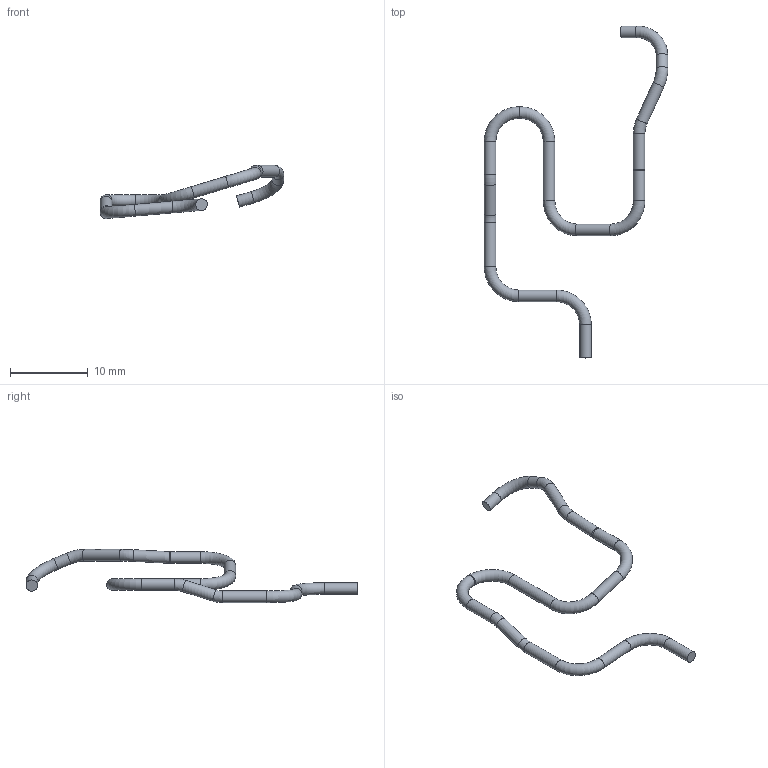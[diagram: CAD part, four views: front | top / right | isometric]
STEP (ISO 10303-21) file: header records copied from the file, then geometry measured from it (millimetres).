
FILE_DESCRIPTION(('Open CASCADE Model'),'2;1');
FILE_NAME('R36_FACTORY_BATTERY_LEAD_2_100mm_INWARD_RISER_FINAL', '2026-09-15T14:48:48',('Author'),('Open CASCADE'), 'Open CASCADE STEP processor 7.9','build123d','Unknown');
FILE_SCHEMA(('AUTOMOTIVE_DESIGN { 1 0 10303 214 1 1 1 1 }'));
Length unit declared in the file: millimetre
Products named in the file (1): R36_FACTORY_BATTERY_LEAD_2_100mm_INWARD_RISER_FINAL
Bounding box: 23.65 x 42.75 x 6.85 mm (x, y, z)
Volume: 176.7 mm3; surface area: 474.8 mm2
Topology: 1 solids, 1 shells, 27 faces, 51 edges, 26 vertices
Faces by surface type: cylinder 13, torus 12, plane 2
Full cylindrical faces by diameter (mm): 1.5 x13
Entity records: 1295 total; most frequent: CARTESIAN_POINT 256, DIRECTION 198, ORIENTED_EDGE 102, PCURVE 102, DEFINITIONAL_REPRESENTATION 102, AXIS2_PLACEMENT_3D 66, LINE 64, VECTOR 64
